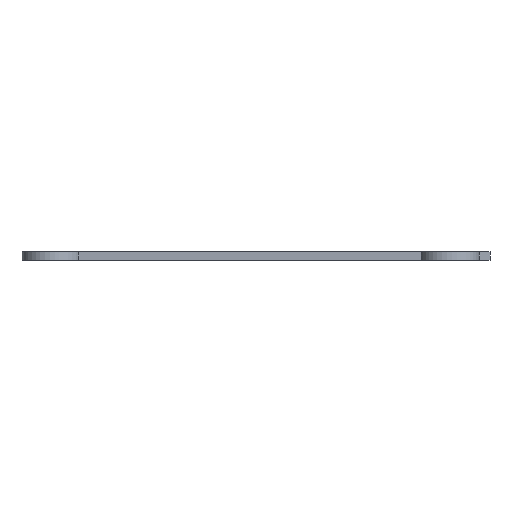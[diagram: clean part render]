
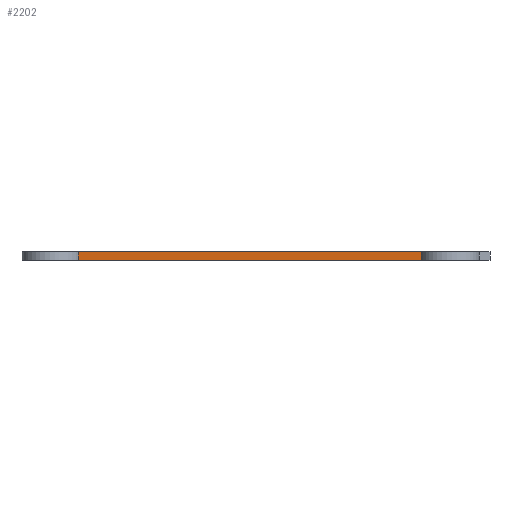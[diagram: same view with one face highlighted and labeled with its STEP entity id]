
A CAD part, left-side view. The second image highlights one B-rep face of the part: STEP entity #2202.
In plain terms, the highlighted planar face has unit normal (-0.996, 0.086, 0).
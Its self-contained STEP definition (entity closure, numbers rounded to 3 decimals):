
#33 = PLANE('',#34);
#34 = AXIS2_PLACEMENT_3D('',#35,#36,#37);
#35 = CARTESIAN_POINT('',(4.,5.442,0.));
#36 = DIRECTION('',(0.,0.,1.));
#37 = DIRECTION('',(1.,0.,-0.));
#151 = VERTEX_POINT('',#152);
#152 = CARTESIAN_POINT('',(6.788,55.376,0.));
#167 = CYLINDRICAL_SURFACE('',#168,4.);
#168 = AXIS2_PLACEMENT_3D('',#169,#170,#171);
#169 = CARTESIAN_POINT('',(8.6,58.942,0.));
#170 = DIRECTION('',(-0.,-0.,-1.));
#171 = DIRECTION('',(1.,0.,0.));
#179 = EDGE_CURVE('',#180,#151,#182,.T.);
#180 = VERTEX_POINT('',#181);
#181 = CARTESIAN_POINT('',(2.823,9.265,0.));
#182 = SURFACE_CURVE('',#183,(#187,#194),.PCURVE_S1.);
#183 = LINE('',#184,#185);
#184 = CARTESIAN_POINT('',(2.506,5.57,0.));
#185 = VECTOR('',#186,1.);
#186 = DIRECTION('',(0.086,0.996,0.));
#187 = PCURVE('',#33,#188);
#188 = DEFINITIONAL_REPRESENTATION('',(#189),#193);
#189 = LINE('',#190,#191);
#190 = CARTESIAN_POINT('',(-1.494,0.128));
#191 = VECTOR('',#192,1.);
#192 = DIRECTION('',(0.086,0.996));
#193 = ( GEOMETRIC_REPRESENTATION_CONTEXT(2) 
PARAMETRIC_REPRESENTATION_CONTEXT() REPRESENTATION_CONTEXT('2D SPACE',''
  ) );
#194 = PCURVE('',#195,#200);
#195 = PLANE('',#196);
#196 = AXIS2_PLACEMENT_3D('',#197,#198,#199);
#197 = CARTESIAN_POINT('',(2.506,5.57,0.));
#198 = DIRECTION('',(-0.996,0.086,0.));
#199 = DIRECTION('',(0.086,0.996,0.));
#200 = DEFINITIONAL_REPRESENTATION('',(#201),#205);
#201 = LINE('',#202,#203);
#202 = CARTESIAN_POINT('',(0.,0.));
#203 = VECTOR('',#204,1.);
#204 = DIRECTION('',(1.,0.));
#205 = ( GEOMETRIC_REPRESENTATION_CONTEXT(2) 
PARAMETRIC_REPRESENTATION_CONTEXT() REPRESENTATION_CONTEXT('2D SPACE',''
  ) );
#224 = CYLINDRICAL_SURFACE('',#225,4.);
#225 = AXIS2_PLACEMENT_3D('',#226,#227,#228);
#226 = CARTESIAN_POINT('',(4.,5.442,0.));
#227 = DIRECTION('',(-0.,-0.,-1.));
#228 = DIRECTION('',(1.,0.,0.));
#1750 = PLANE('',#1751);
#1751 = AXIS2_PLACEMENT_3D('',#1752,#1753,#1754);
#1752 = CARTESIAN_POINT('',(78.918,0.,1.2));
#1753 = DIRECTION('',(0.,0.,1.));
#1754 = DIRECTION('',(1.,0.,0.));
#2110 = VERTEX_POINT('',#2111);
#2111 = CARTESIAN_POINT('',(6.788,55.376,1.2));
#2133 = EDGE_CURVE('',#2110,#151,#2134,.T.);
#2134 = SURFACE_CURVE('',#2135,(#2139,#2146),.PCURVE_S1.);
#2135 = LINE('',#2136,#2137);
#2136 = CARTESIAN_POINT('',(6.788,55.376,0.));
#2137 = VECTOR('',#2138,1.);
#2138 = DIRECTION('',(-0.,-0.,-1.));
#2139 = PCURVE('',#167,#2140);
#2140 = DEFINITIONAL_REPRESENTATION('',(#2141),#2145);
#2141 = LINE('',#2142,#2143);
#2142 = CARTESIAN_POINT('',(-4.242,0.));
#2143 = VECTOR('',#2144,1.);
#2144 = DIRECTION('',(-0.,1.));
#2145 = ( GEOMETRIC_REPRESENTATION_CONTEXT(2) 
PARAMETRIC_REPRESENTATION_CONTEXT() REPRESENTATION_CONTEXT('2D SPACE',''
  ) );
#2146 = PCURVE('',#195,#2147);
#2147 = DEFINITIONAL_REPRESENTATION('',(#2148),#2152);
#2148 = LINE('',#2149,#2150);
#2149 = CARTESIAN_POINT('',(49.989,0.));
#2150 = VECTOR('',#2151,1.);
#2151 = DIRECTION('',(0.,1.));
#2152 = ( GEOMETRIC_REPRESENTATION_CONTEXT(2) 
PARAMETRIC_REPRESENTATION_CONTEXT() REPRESENTATION_CONTEXT('2D SPACE',''
  ) );
#2202 = ADVANCED_FACE('',(#2203),#195,.T.);
#2203 = FACE_BOUND('',#2204,.T.);
#2204 = EDGE_LOOP('',(#2205,#2206,#2229,#2250));
#2205 = ORIENTED_EDGE('',*,*,#179,.F.);
#2206 = ORIENTED_EDGE('',*,*,#2207,.F.);
#2207 = EDGE_CURVE('',#2208,#180,#2210,.T.);
#2208 = VERTEX_POINT('',#2209);
#2209 = CARTESIAN_POINT('',(2.823,9.265,1.2));
#2210 = SURFACE_CURVE('',#2211,(#2215,#2222),.PCURVE_S1.);
#2211 = LINE('',#2212,#2213);
#2212 = CARTESIAN_POINT('',(2.823,9.265,0.));
#2213 = VECTOR('',#2214,1.);
#2214 = DIRECTION('',(-0.,-0.,-1.));
#2215 = PCURVE('',#195,#2216);
#2216 = DEFINITIONAL_REPRESENTATION('',(#2217),#2221);
#2217 = LINE('',#2218,#2219);
#2218 = CARTESIAN_POINT('',(3.708,0.));
#2219 = VECTOR('',#2220,1.);
#2220 = DIRECTION('',(0.,1.));
#2221 = ( GEOMETRIC_REPRESENTATION_CONTEXT(2) 
PARAMETRIC_REPRESENTATION_CONTEXT() REPRESENTATION_CONTEXT('2D SPACE',''
  ) );
#2222 = PCURVE('',#224,#2223);
#2223 = DEFINITIONAL_REPRESENTATION('',(#2224),#2228);
#2224 = LINE('',#2225,#2226);
#2225 = CARTESIAN_POINT('',(-1.869,0.));
#2226 = VECTOR('',#2227,1.);
#2227 = DIRECTION('',(-0.,1.));
#2228 = ( GEOMETRIC_REPRESENTATION_CONTEXT(2) 
PARAMETRIC_REPRESENTATION_CONTEXT() REPRESENTATION_CONTEXT('2D SPACE',''
  ) );
#2229 = ORIENTED_EDGE('',*,*,#2230,.T.);
#2230 = EDGE_CURVE('',#2208,#2110,#2231,.T.);
#2231 = SURFACE_CURVE('',#2232,(#2236,#2243),.PCURVE_S1.);
#2232 = LINE('',#2233,#2234);
#2233 = CARTESIAN_POINT('',(2.506,5.57,1.2));
#2234 = VECTOR('',#2235,1.);
#2235 = DIRECTION('',(0.086,0.996,0.));
#2236 = PCURVE('',#195,#2237);
#2237 = DEFINITIONAL_REPRESENTATION('',(#2238),#2242);
#2238 = LINE('',#2239,#2240);
#2239 = CARTESIAN_POINT('',(0.,-1.2));
#2240 = VECTOR('',#2241,1.);
#2241 = DIRECTION('',(1.,0.));
#2242 = ( GEOMETRIC_REPRESENTATION_CONTEXT(2) 
PARAMETRIC_REPRESENTATION_CONTEXT() REPRESENTATION_CONTEXT('2D SPACE',''
  ) );
#2243 = PCURVE('',#1750,#2244);
#2244 = DEFINITIONAL_REPRESENTATION('',(#2245),#2249);
#2245 = LINE('',#2246,#2247);
#2246 = CARTESIAN_POINT('',(-76.412,5.57));
#2247 = VECTOR('',#2248,1.);
#2248 = DIRECTION('',(0.086,0.996));
#2249 = ( GEOMETRIC_REPRESENTATION_CONTEXT(2) 
PARAMETRIC_REPRESENTATION_CONTEXT() REPRESENTATION_CONTEXT('2D SPACE',''
  ) );
#2250 = ORIENTED_EDGE('',*,*,#2133,.T.);
